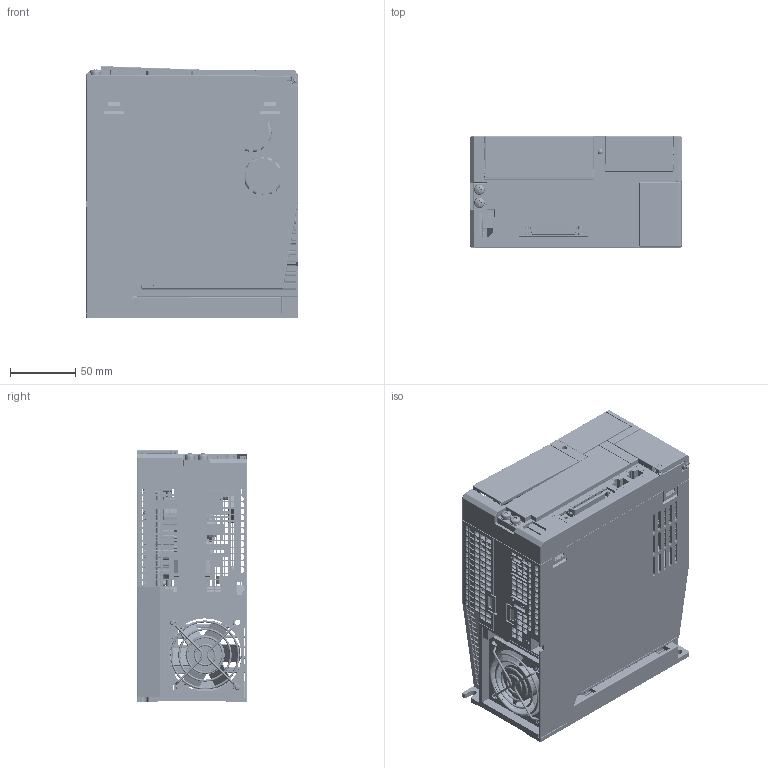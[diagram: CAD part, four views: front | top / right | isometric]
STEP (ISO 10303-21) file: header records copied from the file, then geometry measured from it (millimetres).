
FILE_DESCRIPTION((''),'2;1');
FILE_NAME('E:\tan\SME\说明书用图\1012\SDE_C.stp','2016-10-12T13:27:50',('Administrator'),(''),'Autodesk Inventor 2013','Autodesk Inventor 2013','');
FILE_SCHEMA(('CONFIG_CONTROL_DESIGN'));
Length unit declared in the file: millimetre
Products named in the file (1): SDE_C
Bounding box: 162 x 85 x 192.88 mm (x, y, z)
Surface area: 656941.2 mm2 (no closed solid volume)
Topology: 0 solids, 116 shells, 12405 faces, 33508 edges, 21772 vertices
Faces by surface type: plane 9536, cylinder 2280, bspline 234, torus 155, sphere 112, cone 84, revolution 4
Full cylindrical faces by diameter (mm): 0.415 x5, 0.5 x3, 0.64 x72, 0.8 x26, 1 x28, 1.5 x16, 1.6 x8, 2 x45, 2.2 x5, 2.6 x2, 2.8 x1, 2.828 x1, 3 x20, 3.175 x1, 3.2 x3, 3.25 x2, 3.5 x14, 3.621 x2, 3.7 x7, 3.8 x2, 3.89 x1, 3.9 x1, 4 x76, 4.2 x5, 4.25 x1, 4.3 x2, 4.472 x2, 4.5 x6, 4.8 x1, 5 x3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
Entity records: 405528 total; most frequent: CARTESIAN_POINT 79208, ORIENTED_EDGE 65632, DIRECTION 61715, EDGE_CURVE 32816, VECTOR 27019, LINE 27019, VERTEX_POINT 21687, AXIS2_PLACEMENT_3D 17346
